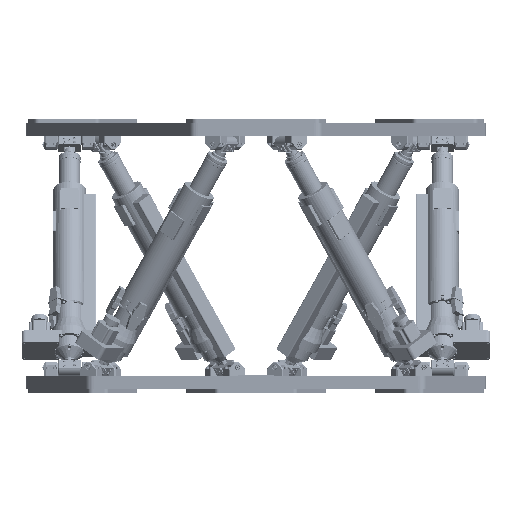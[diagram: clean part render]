
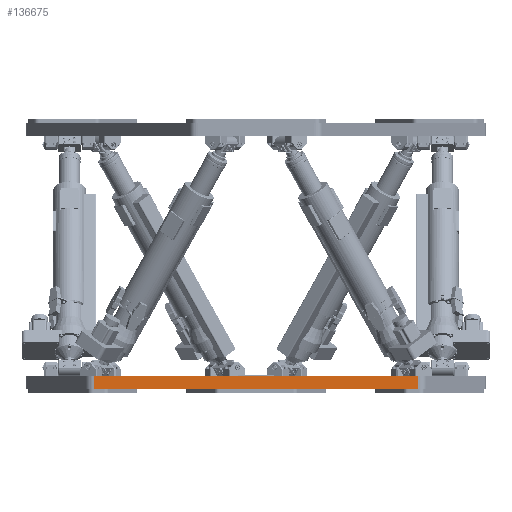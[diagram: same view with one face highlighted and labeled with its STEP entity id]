
A CAD part, left-side view. The second image highlights one B-rep face of the part: STEP entity #136675.
In plain terms, the highlighted planar face has unit normal (-1, 0, 0) as drawn and (1, 0, 0) by its records, which use the part's own axes.
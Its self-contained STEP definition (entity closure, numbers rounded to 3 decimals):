
#609 = ORIENTED_EDGE ( 'NONE', *, *, #155672, .T. ) ;
#12252 = ORIENTED_EDGE ( 'NONE', *, *, #155411, .T. ) ;
#17029 = ORIENTED_EDGE ( 'NONE', *, *, #92678, .F. ) ;
#19912 = CARTESIAN_POINT ( 'NONE',  ( 466.064, -443.945, -47. ) ) ;
#24452 = PLANE ( 'NONE',  #91507 ) ;
#34328 = VERTEX_POINT ( 'NONE', #152431 ) ;
#48548 = VERTEX_POINT ( 'NONE', #196313 ) ;
#54549 = EDGE_LOOP ( 'NONE', ( #17029, #91153, #12252, #609 ) ) ;
#62737 = VERTEX_POINT ( 'NONE', #155618 ) ;
#66981 = DIRECTION ( 'NONE',  ( 0., 1., 0. ) ) ;
#68320 = EDGE_CURVE ( 'NONE', #34328, #48548, #161494, .T. ) ;
#91153 = ORIENTED_EDGE ( 'NONE', *, *, #68320, .F. ) ;
#91507 = AXIS2_PLACEMENT_3D ( 'NONE', #151541, #133984, #183569 ) ;
#92678 = EDGE_CURVE ( 'NONE', #48548, #62737, #159028, .T. ) ;
#94529 = LINE ( 'NONE', #113115, #122246 ) ;
#105734 = CARTESIAN_POINT ( 'NONE',  ( 466.064, 443.945, -47. ) ) ;
#113115 = CARTESIAN_POINT ( 'NONE',  ( 466.064, -443.945, -47. ) ) ;
#122246 = VECTOR ( 'NONE', #156570, 1000. ) ;
#125636 = VECTOR ( 'NONE', #184286, 1000. ) ;
#133984 = DIRECTION ( 'NONE',  ( 1., 0., 0. ) ) ;
#136675 = ADVANCED_FACE ( 'NONE', ( #167072 ), #24452, .T. ) ;
#144571 = VECTOR ( 'NONE', #66981, 1000. ) ;
#145972 = DIRECTION ( 'NONE',  ( 0., 0., 1. ) ) ;
#148212 = CARTESIAN_POINT ( 'NONE',  ( 466.064, 443.945, -47. ) ) ;
#151541 = CARTESIAN_POINT ( 'NONE',  ( 466.064, -443.945, -47. ) ) ;
#152431 = CARTESIAN_POINT ( 'NONE',  ( 466.064, -443.945, -47. ) ) ;
#153257 = LINE ( 'NONE', #105734, #125636 ) ;
#155411 = EDGE_CURVE ( 'NONE', #34328, #164451, #94529, .T. ) ;
#155618 = CARTESIAN_POINT ( 'NONE',  ( 466.064, 443.945, -12. ) ) ;
#155672 = EDGE_CURVE ( 'NONE', #164451, #62737, #153257, .T. ) ;
#156570 = DIRECTION ( 'NONE',  ( 0., 1., 0. ) ) ;
#159028 = LINE ( 'NONE', #191004, #144571 ) ;
#161494 = LINE ( 'NONE', #19912, #174540 ) ;
#164451 = VERTEX_POINT ( 'NONE', #148212 ) ;
#167072 = FACE_OUTER_BOUND ( 'NONE', #54549, .T. ) ;
#174540 = VECTOR ( 'NONE', #145972, 1000. ) ;
#183569 = DIRECTION ( 'NONE',  ( 0., 1., 0. ) ) ;
#184286 = DIRECTION ( 'NONE',  ( 0., 0., 1. ) ) ;
#191004 = CARTESIAN_POINT ( 'NONE',  ( 466.064, -443.945, -12. ) ) ;
#196313 = CARTESIAN_POINT ( 'NONE',  ( 466.064, -443.945, -12. ) ) ;
